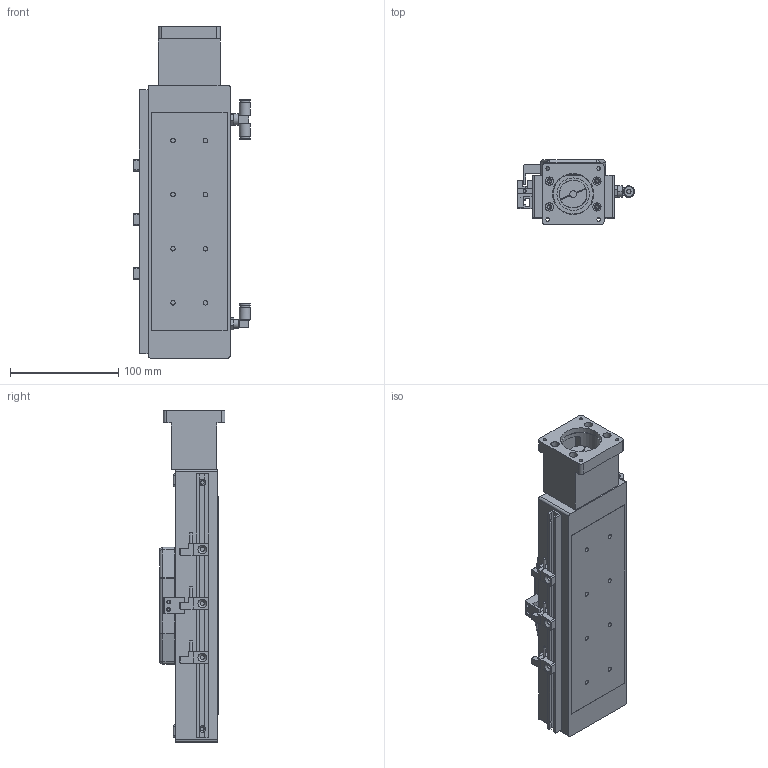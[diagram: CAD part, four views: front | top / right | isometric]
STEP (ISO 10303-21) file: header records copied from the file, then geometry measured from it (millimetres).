
FILE_DESCRIPTION((''),'2;1');
FILE_NAME('E:\catalogue and flyer\actuator catalogue 2015\dwg fr wg\UIA076CR9DC\UIA076CR9DC-stp file 05May16\UIA076CR9DC-100-R12_ _-M23-P13-C10-S.stp','2016-05-05T11:42:55',('h029'),(''),'Autodesk Inventor 11','Autodesk Inventor 11','');
FILE_SCHEMA(('AUTOMOTIVE_DESIGN { 1 0 10303 214 1 1 1 1 }'));
Length unit declared in the file: millimetre
Products named in the file (14): UIA076CR9DC-100; UIA076CR9DC-body; carriage-076CR; SOH25C; side 2; side 1; centre piece; 26-100 0071 sensor flag; GWL4-M5; GWT4-M5; 26-100 0110-M23; Sensor rail; Sensor Bracket ; Sensor
Assembly tree (17 placements, depth 3):
  UIA076CR9DC-100
    UIA076CR9DC-body
    carriage-076CR
    SOH25C
      side 2
      side 1
      centre piece
    26-100 0071 sensor flag
    GWL4-M5
    GWT4-M5
    26-100 0110-M23
    Sensor rail
    Sensor Bracket   x3
    Sensor  x3
Bounding box: 108.1 x 61 x 307 mm (x, y, z)
Volume: 950095.6 mm3; surface area: 152050.9 mm2
Topology: 18 solids, 18 shells, 673 faces, 1758 edges, 1135 vertices
Faces by surface type: plane 355, cylinder 152, bspline 140, sphere 16, cone 10
Full cylindrical faces by diameter (mm): 2.459 x4, 2.5 x3, 8 x2, 25.5 x3, 30 x1, 37 x1, 38.1 x1
Entity records: 19101 total; most frequent: CARTESIAN_POINT 5423, DIRECTION 2733, ORIENTED_EDGE 2642, EDGE_CURVE 1321, AXIS2_PLACEMENT_3D 962, VERTEX_POINT 905, VECTOR 809, LINE 809
